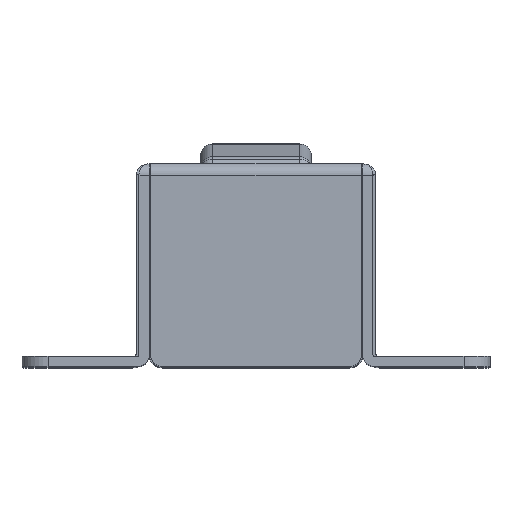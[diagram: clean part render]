
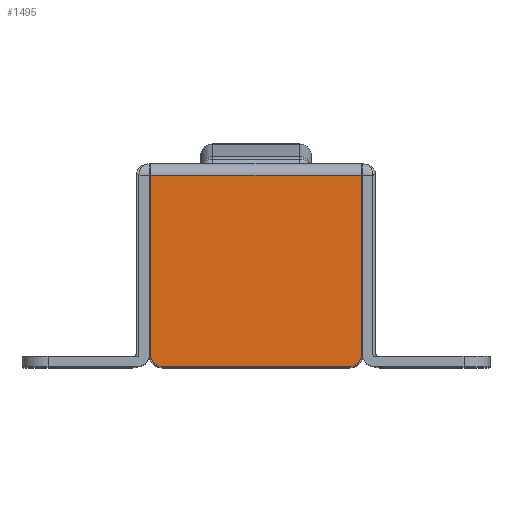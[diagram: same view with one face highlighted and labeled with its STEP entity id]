
A CAD part, top view. The second image highlights one B-rep face of the part: STEP entity #1495.
In plain terms, the highlighted planar face has unit normal (0, 0, 1).
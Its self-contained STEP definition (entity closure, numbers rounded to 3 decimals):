
#589 = EDGE_LOOP ( 'NONE', ( #931, #932, #933, #934, #935, #936 ) ) ;
#931 = ORIENTED_EDGE ( 'NONE', *, *, #1279, .T. ) ;
#932 = ORIENTED_EDGE ( 'NONE', *, *, #1280, .T. ) ;
#933 = ORIENTED_EDGE ( 'NONE', *, *, #1281, .T. ) ;
#934 = ORIENTED_EDGE ( 'NONE', *, *, #1282, .T. ) ;
#935 = ORIENTED_EDGE ( 'NONE', *, *, #1283, .T. ) ;
#936 = ORIENTED_EDGE ( 'NONE', *, *, #1284, .T. ) ;
#1279 = EDGE_CURVE ( 'NONE', #2223, #2221, #4251, .T. ) ;
#1280 = EDGE_CURVE ( 'NONE', #2221, #2228, #4237, .T. ) ;
#1281 = EDGE_CURVE ( 'NONE', #2228, #2229, #4255, .T. ) ;
#1282 = EDGE_CURVE ( 'NONE', #2229, #2230, #4257, .T. ) ;
#1283 = EDGE_CURVE ( 'NONE', #2230, #2231, #4259, .T. ) ;
#1284 = EDGE_CURVE ( 'NONE', #2231, #2223, #4260, .T. ) ;
#1495 = ADVANCED_FACE ( 'NONE', ( #4578 ), #5700, .T. ) ;
#2221 = VERTEX_POINT ( 'NONE', #6283 ) ;
#2223 = VERTEX_POINT ( 'NONE', #6285 ) ;
#2228 = VERTEX_POINT ( 'NONE', #6290 ) ;
#2229 = VERTEX_POINT ( 'NONE', #6291 ) ;
#2230 = VERTEX_POINT ( 'NONE', #6292 ) ;
#2231 = VERTEX_POINT ( 'NONE', #6293 ) ;
#3548 = AXIS2_PLACEMENT_3D ( 'NONE', #3947, #3948, #3949 ) ;
#3549 = AXIS2_PLACEMENT_3D ( 'NONE', #3952, #3953, #3954 ) ;
#3667 = AXIS2_PLACEMENT_3D ( 'NONE', #5701, #5706, #5707 ) ;
#3909 = CARTESIAN_POINT ( 'NONE',  ( -8.1, 14.7, 18. ) ) ;
#3924 = DIRECTION ( 'NONE',  ( 1., 0., 0. ) ) ;
#3939 = CARTESIAN_POINT ( 'NONE',  ( 8.1, 15.6, 18. ) ) ;
#3940 = CARTESIAN_POINT ( 'NONE',  ( -8.1, 0., 18. ) ) ;
#3941 = DIRECTION ( 'NONE',  ( 0., 1., 0. ) ) ;
#3942 = DIRECTION ( 'NONE',  ( -1., 0., 0. ) ) ;
#3943 = CARTESIAN_POINT ( 'NONE',  ( -8.1, 15.6, 18. ) ) ;
#3944 = DIRECTION ( 'NONE',  ( 0., -1., 0. ) ) ;
#3947 = CARTESIAN_POINT ( 'NONE',  ( -7.2, 0.9, 18. ) ) ;
#3948 = DIRECTION ( 'NONE',  ( 0., 0., 1. ) ) ;
#3949 = DIRECTION ( 'NONE',  ( 1., 0., 0. ) ) ;
#3952 = CARTESIAN_POINT ( 'NONE',  ( 7.2, 0.9, 18. ) ) ;
#3953 = DIRECTION ( 'NONE',  ( 0., 0., 1. ) ) ;
#3954 = DIRECTION ( 'NONE',  ( 1., 0., 0. ) ) ;
#4237 = LINE ( 'NONE', #3909, #4256 ) ;
#4251 = LINE ( 'NONE', #3939, #4254 ) ;
#4254 = VECTOR ( 'NONE', #3941, 1000. ) ;
#4255 = LINE ( 'NONE', #3943, #4258 ) ;
#4256 = VECTOR ( 'NONE', #3942, 1000. ) ;
#4257 = CIRCLE ( 'NONE', #3548, 0.9 ) ;
#4258 = VECTOR ( 'NONE', #3944, 1000. ) ;
#4259 = LINE ( 'NONE', #3940, #4261 ) ;
#4260 = CIRCLE ( 'NONE', #3549, 0.9 ) ;
#4261 = VECTOR ( 'NONE', #3924, 1000. ) ;
#4578 = FACE_OUTER_BOUND ( 'NONE', #589, .T. ) ;
#5700 = PLANE ( 'NONE',  #3667 ) ;
#5701 = CARTESIAN_POINT ( 'NONE',  ( 0., 0., 18. ) ) ;
#5706 = DIRECTION ( 'NONE',  ( 0., 0., 1. ) ) ;
#5707 = DIRECTION ( 'NONE',  ( 1., 0., 0. ) ) ;
#6283 = CARTESIAN_POINT ( 'NONE',  ( 8.1, 14.7, 18. ) ) ;
#6285 = CARTESIAN_POINT ( 'NONE',  ( 8.1, 0.9, 18. ) ) ;
#6290 = CARTESIAN_POINT ( 'NONE',  ( -8.1, 14.7, 18. ) ) ;
#6291 = CARTESIAN_POINT ( 'NONE',  ( -8.1, 0.9, 18. ) ) ;
#6292 = CARTESIAN_POINT ( 'NONE',  ( -7.2, 0., 18. ) ) ;
#6293 = CARTESIAN_POINT ( 'NONE',  ( 7.2, 0., 18. ) ) ;
